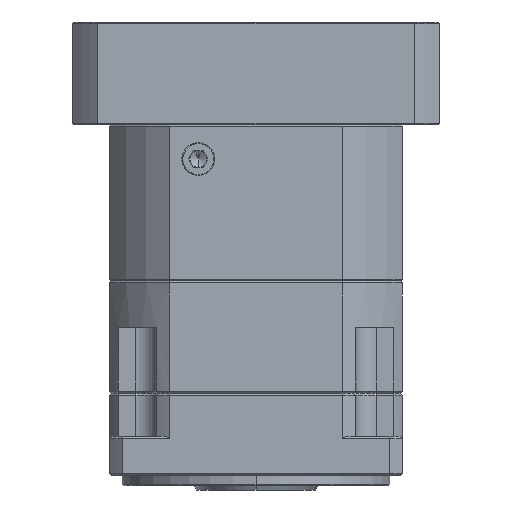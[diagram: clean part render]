
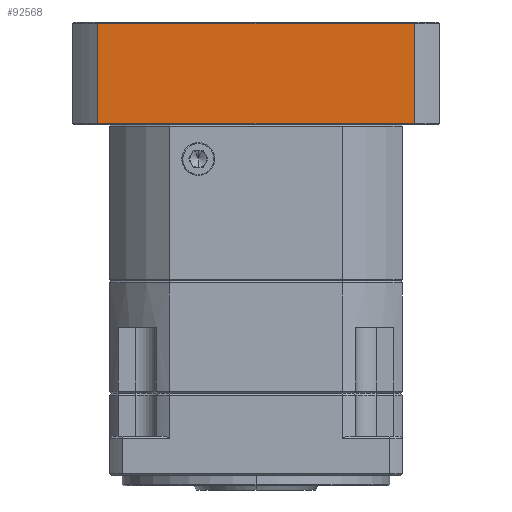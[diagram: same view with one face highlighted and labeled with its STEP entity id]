
A CAD part, left-side view. The second image highlights one B-rep face of the part: STEP entity #92568.
In plain terms, the highlighted planar face has unit normal (-1, 0, 0).
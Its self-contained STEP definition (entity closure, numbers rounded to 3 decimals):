
#953 = VERTEX_POINT ( 'NONE', #113996 ) ;
#4205 = LINE ( 'NONE', #51278, #127093 ) ;
#6309 = DIRECTION ( 'NONE',  ( 0., -1., 0. ) ) ;
#11238 = VECTOR ( 'NONE', #6309, 1000. ) ;
#16829 = CARTESIAN_POINT ( 'NONE',  ( -351.693, -67.713, -15.428 ) ) ;
#17181 = DIRECTION ( 'NONE',  ( 0., 0., 1. ) ) ;
#18016 = VERTEX_POINT ( 'NONE', #72142 ) ;
#18620 = AXIS2_PLACEMENT_3D ( 'NONE', #86517, #56791, #128236 ) ;
#19444 = LINE ( 'NONE', #16829, #11238 ) ;
#37993 = ORIENTED_EDGE ( 'NONE', *, *, #89848, .T. ) ;
#42726 = EDGE_CURVE ( 'NONE', #91518, #91260, #19444, .T. ) ;
#43019 = ORIENTED_EDGE ( 'NONE', *, *, #120474, .F. ) ;
#43919 = LINE ( 'NONE', #107748, #129063 ) ;
#51278 = CARTESIAN_POINT ( 'NONE',  ( -351.693, 98.002, 33.572 ) ) ;
#56791 = DIRECTION ( 'NONE',  ( 1., 0., 0. ) ) ;
#68208 = EDGE_CURVE ( 'NONE', #18016, #91260, #43919, .T. ) ;
#71481 = FACE_OUTER_BOUND ( 'NONE', #92732, .T. ) ;
#72142 = CARTESIAN_POINT ( 'NONE',  ( -351.693, -55.428, 33.572 ) ) ;
#72707 = DIRECTION ( 'NONE',  ( 0., 1., 0. ) ) ;
#75817 = CARTESIAN_POINT ( 'NONE',  ( -351.693, 98.002, -15.428 ) ) ;
#76000 = DIRECTION ( 'NONE',  ( 0., 0., -1. ) ) ;
#86517 = CARTESIAN_POINT ( 'NONE',  ( -351.693, -67.713, 34.072 ) ) ;
#87659 = VECTOR ( 'NONE', #17181, 1000. ) ;
#89848 = EDGE_CURVE ( 'NONE', #18016, #953, #4205, .T. ) ;
#91260 = VERTEX_POINT ( 'NONE', #112739 ) ;
#91518 = VERTEX_POINT ( 'NONE', #75817 ) ;
#91819 = CARTESIAN_POINT ( 'NONE',  ( -351.693, 98.002, -15.928 ) ) ;
#92568 = ADVANCED_FACE ( 'NONE', ( #71481 ), #108603, .F. ) ;
#92732 = EDGE_LOOP ( 'NONE', ( #129538, #37993, #43019, #132824 ) ) ;
#107748 = CARTESIAN_POINT ( 'NONE',  ( -351.693, -55.428, -15.928 ) ) ;
#108603 = PLANE ( 'NONE',  #18620 ) ;
#112739 = CARTESIAN_POINT ( 'NONE',  ( -351.693, -55.428, -15.428 ) ) ;
#113996 = CARTESIAN_POINT ( 'NONE',  ( -351.693, 98.002, 33.572 ) ) ;
#120474 = EDGE_CURVE ( 'NONE', #91518, #953, #128715, .T. ) ;
#127093 = VECTOR ( 'NONE', #72707, 1000. ) ;
#128236 = DIRECTION ( 'NONE',  ( 0., 0., -1. ) ) ;
#128715 = LINE ( 'NONE', #91819, #87659 ) ;
#129063 = VECTOR ( 'NONE', #76000, 1000. ) ;
#129538 = ORIENTED_EDGE ( 'NONE', *, *, #68208, .F. ) ;
#132824 = ORIENTED_EDGE ( 'NONE', *, *, #42726, .T. ) ;
